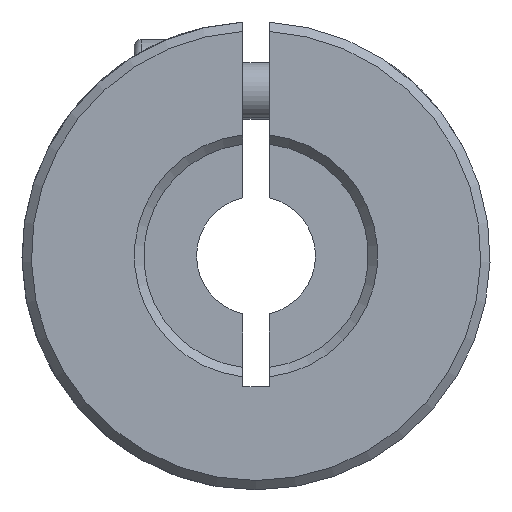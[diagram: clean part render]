
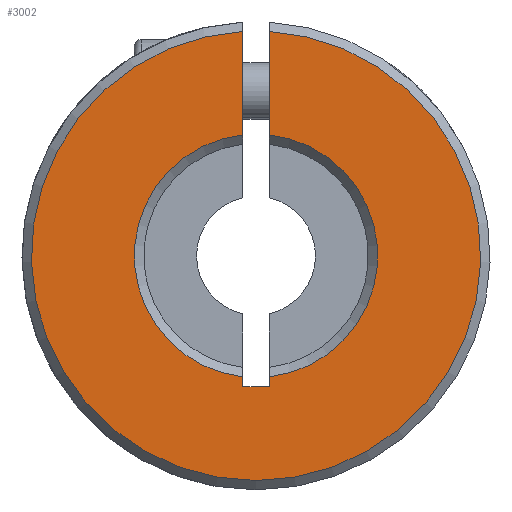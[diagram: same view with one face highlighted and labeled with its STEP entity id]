
A CAD part, front view. The second image highlights one B-rep face of the part: STEP entity #3002.
In plain terms, the highlighted planar face has unit normal (0, -1, 0).
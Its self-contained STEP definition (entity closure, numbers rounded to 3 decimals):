
#61 = EDGE_CURVE ( 'NONE', #1013, #1060, #2881, .T. ) ;
#119 = CARTESIAN_POINT ( 'NONE',  ( 0.7, 0.25, 6.462 ) ) ;
#160 = DIRECTION ( 'NONE',  ( 0., 0., 1. ) ) ;
#224 = CARTESIAN_POINT ( 'NONE',  ( -0.7, 0.25, -6.462 ) ) ;
#248 = DIRECTION ( 'NONE',  ( 0., 0., 1. ) ) ;
#301 = ORIENTED_EDGE ( 'NONE', *, *, #61, .F. ) ;
#466 = CARTESIAN_POINT ( 'NONE',  ( 0.7, 0.25, -7. ) ) ;
#554 = ORIENTED_EDGE ( 'NONE', *, *, #1840, .F. ) ;
#600 = ORIENTED_EDGE ( 'NONE', *, *, #3137, .F. ) ;
#697 = DIRECTION ( 'NONE',  ( 0., -1., 0. ) ) ;
#732 = DIRECTION ( 'NONE',  ( 0., 0., -1. ) ) ;
#881 = CIRCLE ( 'NONE', #3515, 12. ) ;
#882 = VERTEX_POINT ( 'NONE', #119 ) ;
#963 = CARTESIAN_POINT ( 'NONE',  ( 0.7, 0.25, -6.462 ) ) ;
#968 = ORIENTED_EDGE ( 'NONE', *, *, #4762, .F. ) ;
#991 = VERTEX_POINT ( 'NONE', #3152 ) ;
#1013 = VERTEX_POINT ( 'NONE', #1362 ) ;
#1060 = VERTEX_POINT ( 'NONE', #2806 ) ;
#1176 = DIRECTION ( 'NONE',  ( 0., 0., 1. ) ) ;
#1287 = EDGE_CURVE ( 'NONE', #1834, #1060, #4094, .T. ) ;
#1336 = VERTEX_POINT ( 'NONE', #963 ) ;
#1362 = CARTESIAN_POINT ( 'NONE',  ( -0.7, 0.25, 11.98 ) ) ;
#1412 = CARTESIAN_POINT ( 'NONE',  ( -0.7, 0.25, -7. ) ) ;
#1451 = ORIENTED_EDGE ( 'NONE', *, *, #4351, .F. ) ;
#1473 = LINE ( 'NONE', #3141, #4571 ) ;
#1512 = CARTESIAN_POINT ( 'NONE',  ( -0.7, 0.25, -7. ) ) ;
#1550 = CARTESIAN_POINT ( 'NONE',  ( 0.7, 0.25, -7. ) ) ;
#1579 = DIRECTION ( 'NONE',  ( 0., 0., 1. ) ) ;
#1653 = CARTESIAN_POINT ( 'NONE',  ( -0.7, 0.25, -7. ) ) ;
#1742 = ORIENTED_EDGE ( 'NONE', *, *, #3690, .T. ) ;
#1777 = AXIS2_PLACEMENT_3D ( 'NONE', #1981, #5350, #1579 ) ;
#1834 = VERTEX_POINT ( 'NONE', #224 ) ;
#1840 = EDGE_CURVE ( 'NONE', #1834, #5179, #2782, .T. ) ;
#1843 = AXIS2_PLACEMENT_3D ( 'NONE', #5427, #3344, #1176 ) ;
#1930 = ORIENTED_EDGE ( 'NONE', *, *, #1287, .T. ) ;
#1967 = EDGE_LOOP ( 'NONE', ( #1451, #4970, #968, #600, #554, #1930, #301, #1742 ) ) ;
#1981 = CARTESIAN_POINT ( 'NONE',  ( 0., 0.25, 0. ) ) ;
#2190 = DIRECTION ( 'NONE',  ( 0., 0., 1. ) ) ;
#2346 = AXIS2_PLACEMENT_3D ( 'NONE', #4756, #5145, #2190 ) ;
#2424 = FACE_OUTER_BOUND ( 'NONE', #1967, .T. ) ;
#2436 = VECTOR ( 'NONE', #732, 1000. ) ;
#2506 = PLANE ( 'NONE',  #1843 ) ;
#2649 = LINE ( 'NONE', #466, #4910 ) ;
#2676 = DIRECTION ( 'NONE',  ( 0., 0., -1. ) ) ;
#2782 = LINE ( 'NONE', #1512, #4542 ) ;
#2806 = CARTESIAN_POINT ( 'NONE',  ( -0.7, 0.25, 6.462 ) ) ;
#2881 = LINE ( 'NONE', #1653, #2436 ) ;
#3002 = ADVANCED_FACE ( 'NONE', ( #2424 ), #2506, .F. ) ;
#3137 = EDGE_CURVE ( 'NONE', #5179, #991, #2649, .T. ) ;
#3141 = CARTESIAN_POINT ( 'NONE',  ( 0.7, 0.25, -7. ) ) ;
#3152 = CARTESIAN_POINT ( 'NONE',  ( 0.7, 0.25, -7. ) ) ;
#3179 = LINE ( 'NONE', #1550, #4558 ) ;
#3344 = DIRECTION ( 'NONE',  ( 0., 1., 0. ) ) ;
#3515 = AXIS2_PLACEMENT_3D ( 'NONE', #4455, #697, #160 ) ;
#3690 = EDGE_CURVE ( 'NONE', #1013, #3919, #881, .T. ) ;
#3919 = VERTEX_POINT ( 'NONE', #4239 ) ;
#4094 = CIRCLE ( 'NONE', #2346, 6.5 ) ;
#4230 = CIRCLE ( 'NONE', #1777, 6.5 ) ;
#4239 = CARTESIAN_POINT ( 'NONE',  ( 0.7, 0.25, 11.98 ) ) ;
#4351 = EDGE_CURVE ( 'NONE', #882, #3919, #3179, .T. ) ;
#4455 = CARTESIAN_POINT ( 'NONE',  ( 0., 0.25, 0. ) ) ;
#4537 = EDGE_CURVE ( 'NONE', #882, #1336, #4230, .T. ) ;
#4542 = VECTOR ( 'NONE', #2676, 1000. ) ;
#4558 = VECTOR ( 'NONE', #248, 1000. ) ;
#4571 = VECTOR ( 'NONE', #5221, 1000. ) ;
#4756 = CARTESIAN_POINT ( 'NONE',  ( 0., 0.25, 0. ) ) ;
#4762 = EDGE_CURVE ( 'NONE', #991, #1336, #1473, .T. ) ;
#4910 = VECTOR ( 'NONE', #5138, 1000. ) ;
#4970 = ORIENTED_EDGE ( 'NONE', *, *, #4537, .T. ) ;
#5138 = DIRECTION ( 'NONE',  ( 1., 0., 0. ) ) ;
#5145 = DIRECTION ( 'NONE',  ( 0., 1., 0. ) ) ;
#5179 = VERTEX_POINT ( 'NONE', #1412 ) ;
#5221 = DIRECTION ( 'NONE',  ( 0., 0., 1. ) ) ;
#5350 = DIRECTION ( 'NONE',  ( 0., 1., 0. ) ) ;
#5427 = CARTESIAN_POINT ( 'NONE',  ( 12.5, 0.25, -50. ) ) ;
